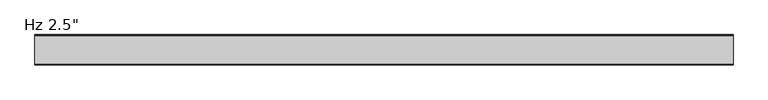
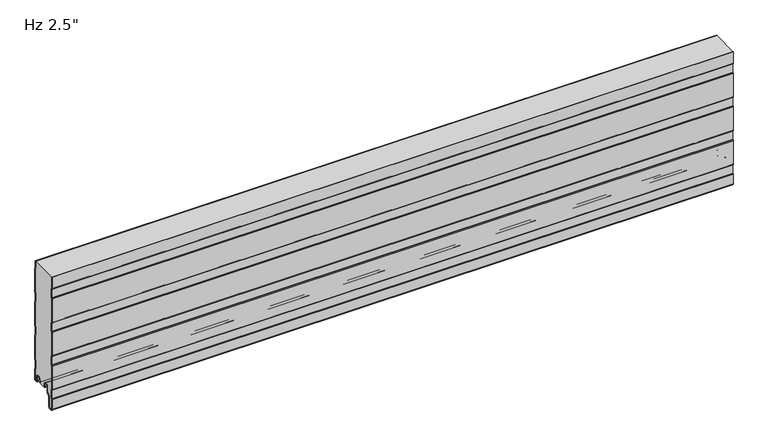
"""IFC4 building model written with IfcOpenShell, lengths in millimetres: plate geometry."""

from ifc_helpers import new_model, si_unit, point, frame, frame_2d, origin, place, context, project, spatial, polyline, circle_curve, trimmed, segment, composite_curve, outline, extrude, source, transform, mapped, element, save
from ifc_brep_helpers import plane_surface, cylinder_surface, revolved_surface, advanced_brep


def plate_4793d3af(model_context):
    return source(origin(), model_context, "Body", "SolidModel", [
        advanced_brep(
        [(-730.0, -17.0015159, 2.0313088), (-730.0, -18.0015191, 1.0313116), (-730.0, -19.0015105, 2.0313088), (-730.0, -19.0015105, 6.0315125), (-730.0, -18.0015159, 6.0315125), (-730.0, -18.0015159, 8.7237223), (-730.0, -14.7015202, 12.023718), (-730.0, -10.301529, 12.023718), (-730.0, -7.0015335, 8.7237225), (-730.0, -7.0015335, -1.6962564), (-730.0, -5.2315393, -3.4662506), (-730.0, -0.9999916, -3.4662506), (-730.0, -0.9999916, 21.034026), (-730.0, -2.2002307, 22.4196686), (-730.0, -2.2002307, 41.7948349), (-730.0, -1.0, 43.1804679), (-730.0, -1.0, 97.2338833), (-730.0, -2.2002307, 98.6195162), (-730.0, -2.2002307, 117.9946825), (-730.0, -1.0, 119.3803155), (-730.0, -1.0, 173.4337309), (-730.0, -2.2002307, 174.8193638), (-730.0, -2.2002307, 194.1945301), (-730.0, -1.0, 195.5801631), (-730.0, -1.0, 249.6335785), (-730.0, -2.2002307, 251.0192114), (-730.0, -2.2002307, 266.4), (-730.0, -1.2002307, 266.4), (-730.0, -1.2002307, 251.3920919), (-730.0, -0.3417885, 250.4010442), (-730.0, 0.0, 249.4844273), (-730.0, 0.0, 195.7293142), (-730.0, -0.3417885, 194.8126973), (-730.0, -1.2002307, 193.8216497), (-730.0, -1.2002307, 175.1922443), (-730.0, -0.3417885, 174.2011966), (-730.0, 0.0, 173.2845797), (-730.0, 0.0, 119.5294666), (-730.0, -0.3417885, 118.6128497), (-730.0, -1.2002307, 117.6218021), (-730.0, -1.2002307, 98.9923967), (-730.0, -0.3417885, 98.001349), (-730.0, 0.0, 97.0847321), (-730.0, 0.0, 43.329619), (-730.0, -0.3417885, 42.4130021), (-730.0, -1.2002307, 41.4219545), (-730.0, -1.2002307, 22.7925491), (-730.0, -0.3417885, 21.8015014), (-730.0, 0.0, 20.8847931), (-730.0, 8.4e-06, -3.0662545), (-730.0, -1.3999878, -4.4662506), (-730.0, -5.2315393, -4.4662506), (-730.0, -8.0015335, -1.6962564), (-730.0, -8.0015335, 8.7237225), (-730.0, -10.301529, 11.023718), (-730.0, -14.7015202, 11.023718), (-730.0, -17.0015159, 8.7237223), (730.0, -17.0015159, 2.0313088), (730.0, -17.0015159, 8.7237223), (730.0, -14.7015202, 11.023718), (730.0, -10.301529, 11.023718), (730.0, -8.0015335, 8.7237225), (730.0, -8.0015335, -1.6962564), (730.0, -5.2315393, -4.4662506), (730.0, -1.3999878, -4.4662506), (730.0, 8.4e-06, -3.0662545), (730.0, 8.4e-06, 20.8848845), (730.0, -0.3417885, 21.8015014), (730.0, -1.2002307, 22.7925491), (730.0, -1.2002307, 41.4219545), (730.0, -0.3417885, 42.4130021), (730.0, 0.0, 43.329619), (730.0, 0.0, 97.0847321), (730.0, -0.3417885, 98.001349), (730.0, -1.2002307, 98.9923967), (730.0, -1.2002307, 117.6218021), (730.0, -0.3417885, 118.6128497), (730.0, 0.0, 119.5294666), (730.0, 0.0, 173.2845797), (730.0, -0.3417885, 174.2011966), (730.0, -1.2002307, 175.1922443), (730.0, -1.2002307, 193.8216497), (730.0, -0.3417885, 194.8126973), (730.0, 0.0, 195.7293142), (730.0, 0.0, 249.4844273), (730.0, -0.3417885, 250.4010442), (730.0, -1.2002307, 251.3920919), (730.0, -1.2002307, 266.4), (730.0, -2.2002307, 266.4), (730.0, -2.2002307, 251.0192114), (730.0, -1.0, 249.6335785), (730.0, -1.0, 195.5801631), (730.0, -2.2002307, 194.1945301), (730.0, -2.2002307, 174.8193638), (730.0, -1.0, 173.4337309), (730.0, -1.0, 119.3803155), (730.0, -2.2002307, 117.9946825), (730.0, -2.2002307, 98.6195162), (730.0, -1.0, 97.2338833), (730.0, -1.0, 43.1804679), (730.0, -2.2002307, 41.7948349), (730.0, -2.2002307, 22.4196686), (730.0, -0.9999916, 21.034026), (730.0, -0.9999916, -3.4662506), (730.0, -5.2315393, -3.4662506), (730.0, -7.0015335, -1.6962564), (730.0, -7.0015335, 8.7237225), (730.0, -10.301529, 12.023718), (730.0, -14.7015202, 12.023718), (730.0, -18.0015159, 8.7237223), (730.0, -18.0015159, 6.0315125), (730.0, -19.0015105, 6.0315125), (730.0, -19.0015105, 2.0313088), (730.0, -18.0015192, 1.0313116)],
        [
            (0, 1, circle_curve(frame((-730.0, -18.0015132, 2.0313088), z_axis=(-1.0, 0.0, 0.0), x_axis=(0.0, 0.0, 1.0)), 0.9999973)),
            (1, 2, circle_curve(frame((-730.0, -18.0015133, 2.0313088), z_axis=(-1.0, 0.0, 0.0), x_axis=(0.0, 0.0, 1.0)), 0.9999972)),
            (2, 3),
            (3, 4),
            (4, 5),
            (5, 6, circle_curve(frame((-730.0, -14.7015202, 8.7237223), z_axis=(-1.0, 0.0, 0.0), x_axis=(0.0, 0.0, 1.0)), 3.2999957)),
            (6, 7),
            (7, 8, circle_curve(frame((-730.0, -10.301529, 8.7237225), z_axis=(-1.0, 0.0, 0.0), x_axis=(0.0, 0.0, 1.0)), 3.2999955)),
            (8, 9),
            (9, 10, circle_curve(frame((-730.0, -5.2315393, -1.6962564), z_axis=(1.0, 0.0, 0.0), x_axis=(0.0, 0.0, 1.0)), 1.7699942)),
            (10, 11),
            (11, 12),
            (12, 13),
            (13, 14),
            (14, 15),
            (15, 16),
            (16, 17),
            (17, 18),
            (18, 19),
            (19, 20),
            (20, 21),
            (21, 22),
            (22, 23),
            (23, 24),
            (24, 25),
            (25, 26),
            (26, 27),
            (27, 28),
            (28, 29),
            (29, 30, circle_curve(frame((-730.0, -1.3999972, 249.4844273), z_axis=(-1.0, 0.0, 0.0), x_axis=(0.0, 0.0, 1.0)), 1.3999972)),
            (30, 31),
            (31, 32, circle_curve(frame((-730.0, -1.3999972, 195.7293142), z_axis=(-1.0, 0.0, 0.0), x_axis=(0.0, 0.0, 1.0)), 1.3999972)),
            (32, 33),
            (33, 34),
            (34, 35),
            (35, 36, circle_curve(frame((-730.0, -1.3999972, 173.2845797), z_axis=(-1.0, 0.0, 0.0), x_axis=(0.0, 0.0, 1.0)), 1.3999972)),
            (36, 37),
            (37, 38, circle_curve(frame((-730.0, -1.3999972, 119.5294666), z_axis=(-1.0, 0.0, 0.0), x_axis=(0.0, 0.0, 1.0)), 1.3999972)),
            (38, 39),
            (39, 40),
            (40, 41),
            (41, 42, circle_curve(frame((-730.0, -1.3999972, 97.0847321), z_axis=(-1.0, 0.0, 0.0), x_axis=(0.0, 0.0, 1.0)), 1.3999972)),
            (42, 43),
            (43, 44, circle_curve(frame((-730.0, -1.3999972, 43.329619), z_axis=(-1.0, 0.0, 0.0), x_axis=(0.0, 0.0, 1.0)), 1.3999972)),
            (44, 45),
            (45, 46),
            (46, 47),
            (47, 48, circle_curve(frame((-730.0, -1.3999972, 20.8848845), z_axis=(-1.0, 0.0, 0.0), x_axis=(0.0, 0.0, 1.0)), 1.3999972)),
            (48, 49),
            (49, 50, circle_curve(frame((-730.0, -1.3999878, -3.0662545), z_axis=(-1.0, 0.0, 0.0), x_axis=(0.0, 0.0, 1.0)), 1.3999962)),
            (50, 51),
            (51, 52, circle_curve(frame((-730.0, -5.2315393, -1.6962564), z_axis=(-1.0, 0.0, 0.0), x_axis=(0.0, 0.0, 1.0)), 2.7699942)),
            (52, 53),
            (53, 54, circle_curve(frame((-730.0, -10.301529, 8.7237225), z_axis=(1.0, 0.0, 0.0), x_axis=(0.0, 0.0, 1.0)), 2.2999955)),
            (54, 55),
            (55, 56, circle_curve(frame((-730.0, -14.7015202, 8.7237223), z_axis=(1.0, 0.0, 0.0), x_axis=(0.0, 0.0, 1.0)), 2.2999957)),
            (56, 0),
            (57, 58),
            (58, 59, circle_curve(frame((730.0, -14.7015202, 8.7237223), z_axis=(-1.0, 0.0, 0.0), x_axis=(0.0, 0.0, 1.0)), 2.2999957)),
            (59, 60),
            (60, 61, circle_curve(frame((730.0, -10.301529, 8.7237225), z_axis=(-1.0, 0.0, 0.0), x_axis=(0.0, 0.0, 1.0)), 2.2999955)),
            (61, 62),
            (62, 63, circle_curve(frame((730.0, -5.2315393, -1.6962564), z_axis=(1.0, 0.0, 0.0), x_axis=(0.0, 0.0, 1.0)), 2.7699942)),
            (63, 64),
            (64, 65, circle_curve(frame((730.0, -1.3999878, -3.0662545), z_axis=(1.0, 0.0, 0.0), x_axis=(0.0, 0.0, 1.0)), 1.3999962)),
            (65, 66),
            (66, 67, circle_curve(frame((730.0, -1.3999972, 20.8848845), z_axis=(1.0, 0.0, 0.0), x_axis=(0.0, 0.0, 1.0)), 1.3999972)),
            (67, 68),
            (68, 69),
            (69, 70),
            (70, 71, circle_curve(frame((730.0, -1.3999972, 43.329619), z_axis=(1.0, 0.0, 0.0), x_axis=(0.0, 0.0, 1.0)), 1.3999972)),
            (71, 72),
            (72, 73, circle_curve(frame((730.0, -1.3999972, 97.0847321), z_axis=(1.0, 0.0, 0.0), x_axis=(0.0, 0.0, 1.0)), 1.3999972)),
            (73, 74),
            (74, 75),
            (75, 76),
            (76, 77, circle_curve(frame((730.0, -1.3999972, 119.5294666), z_axis=(1.0, 0.0, 0.0), x_axis=(0.0, 0.0, 1.0)), 1.3999972)),
            (77, 78),
            (78, 79, circle_curve(frame((730.0, -1.3999972, 173.2845797), z_axis=(1.0, 0.0, 0.0), x_axis=(0.0, 0.0, 1.0)), 1.3999972)),
            (79, 80),
            (80, 81),
            (81, 82),
            (82, 83, circle_curve(frame((730.0, -1.3999972, 195.7293142), z_axis=(1.0, 0.0, 0.0), x_axis=(0.0, 0.0, 1.0)), 1.3999972)),
            (83, 84),
            (84, 85, circle_curve(frame((730.0, -1.3999972, 249.4844273), z_axis=(1.0, 0.0, 0.0), x_axis=(0.0, 0.0, 1.0)), 1.3999972)),
            (85, 86),
            (86, 87),
            (87, 88),
            (88, 89),
            (89, 90),
            (90, 91),
            (91, 92),
            (92, 93),
            (93, 94),
            (94, 95),
            (95, 96),
            (96, 97),
            (97, 98),
            (98, 99),
            (99, 100),
            (100, 101),
            (101, 102),
            (102, 103),
            (103, 104),
            (104, 105, circle_curve(frame((730.0, -5.2315393, -1.6962564), z_axis=(-1.0, 0.0, 0.0), x_axis=(0.0, 0.0, 1.0)), 1.7699942)),
            (105, 106),
            (106, 107, circle_curve(frame((730.0, -10.301529, 8.7237225), z_axis=(1.0, 0.0, 0.0), x_axis=(0.0, 0.0, 1.0)), 3.2999955)),
            (107, 108),
            (108, 109, circle_curve(frame((730.0, -14.7015202, 8.7237223), z_axis=(1.0, 0.0, 0.0), x_axis=(0.0, 0.0, 1.0)), 3.2999957)),
            (109, 110),
            (110, 111),
            (111, 112),
            (112, 113, circle_curve(frame((730.0, -18.0015133, 2.0313088), z_axis=(1.0, 0.0, 0.0), x_axis=(0.0, 0.0, 1.0)), 0.9999972)),
            (113, 57, circle_curve(frame((730.0, -18.0015132, 2.0313088), z_axis=(1.0, 0.0, 0.0), x_axis=(0.0, 0.0, 1.0)), 0.9999973)),
            (26, 88),
            (87, 27),
            (56, 58),
            (57, 0),
            (55, 59),
            (54, 60),
            (53, 61),
            (52, 62),
            (51, 63),
            (50, 64),
            (49, 65),
            (48, 66),
            (47, 67),
            (46, 68),
            (45, 69),
            (44, 70),
            (43, 71),
            (42, 72),
            (41, 73),
            (40, 74),
            (39, 75),
            (38, 76),
            (37, 77),
            (36, 78),
            (19, 95),
            (94, 20),
            (18, 96),
            (17, 97),
            (16, 98),
            (15, 99),
            (14, 100),
            (13, 101),
            (12, 102),
            (11, 103),
            (10, 104),
            (9, 105),
            (8, 106),
            (7, 107),
            (6, 108),
            (5, 109),
            (4, 110),
            (3, 111),
            (2, 112),
            (1, 113),
            (35, 79),
            (34, 80),
            (33, 81),
            (32, 82),
            (31, 83),
            (30, 84),
            (29, 85),
            (28, 86),
            (25, 89),
            (24, 90),
            (23, 91),
            (22, 92),
            (21, 93),
        ],
        [
            plane_surface(frame((-730.0, 0.0, 533.4), z_axis=(-1.0, 0.0, 0.0), x_axis=(0.0, 1.0, 0.0))),
            plane_surface(frame((730.0, 0.0, 533.4), z_axis=(1.0, 0.0, 0.0), x_axis=(0.0, 1.0, 0.0))),
            plane_surface(frame((730.0, 10.0, 266.4), z_axis=(0.0, 0.0, 1.0), x_axis=(-1.0, 0.0, 0.0))),
            plane_surface(frame((-730.0, -17.0015159, 2.0313088), z_axis=(0.0, 1.0, 0.0), x_axis=(1.0, 0.0, 0.0))),
            revolved_surface(polyline([(730.0, -14.7015202, 11.023718), (-730.0, -14.7015202, 11.023718)]), (-730.0, -14.7015202, 8.7237223), (1.0, 0.0, 0.0)),
            plane_surface(frame((-730.0, -14.7015202, 11.023718), z_axis=(0.0, 0.0, -1.0), x_axis=(1.0, 0.0, 0.0))),
            revolved_surface(polyline([(730.0, -10.301529, 11.023717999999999), (-730.0, -10.301529, 11.023717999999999)]), (-730.0, -10.301529, 8.7237225), (1.0, 0.0, 0.0)),
            plane_surface(frame((-730.0, -8.0015335, 8.7237225), z_axis=(0.0, -1.0, 0.0), x_axis=(1.0, 0.0, 0.0))),
            cylinder_surface(frame((-730.0, -5.2315393, -1.6962564), z_axis=(-1.0, 0.0, 0.0), x_axis=(0.0, 0.0, 1.0)), 2.7699942),
            plane_surface(frame((-730.0, -5.2315393, -4.4662506), z_axis=(0.0, 0.0, -1.0), x_axis=(1.0, 0.0, 0.0))),
            cylinder_surface(frame((-730.0, -1.3999878, -3.0662545), z_axis=(-1.0, 0.0, 0.0), x_axis=(0.0, 0.0, 1.0)), 1.3999962),
            plane_surface(frame((-730.0, 8.4e-06, -3.0662545), z_axis=(0.0, 1.0, 0.0), x_axis=(1.0, 0.0, 0.0))),
            cylinder_surface(frame((-730.0, -1.3999972, 20.8848845), z_axis=(-1.0, 0.0, 0.0), x_axis=(0.0, 0.0, 1.0)), 1.3999972),
            plane_surface(frame((-730.0, -0.3417885, 21.8015014), z_axis=(0.0, 0.755864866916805, 0.6547276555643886), x_axis=(1.0, 0.0, 0.0))),
            plane_surface(frame((-730.0, -1.2002307, 32.1072518), z_axis=(0.0, 1.0, 0.0), x_axis=(1.0, 0.0, 0.0))),
            plane_surface(frame((-730.0, -1.2002307, 41.4219545), z_axis=(0.0, 0.755864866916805, -0.6547276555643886), x_axis=(1.0, 0.0, 0.0))),
            cylinder_surface(frame((-730.0, -1.3999972, 43.329619), z_axis=(-1.0, 0.0, 0.0), x_axis=(0.0, 0.0, 1.0)), 1.3999972),
            plane_surface(frame((-730.0, 0.0, 43.329619), z_axis=(0.0, 1.0, 0.0), x_axis=(1.0, 0.0, 0.0))),
            cylinder_surface(frame((-730.0, -1.3999972, 97.0847321), z_axis=(-1.0, 0.0, 0.0), x_axis=(0.0, 0.0, 1.0)), 1.3999972),
            plane_surface(frame((-730.0, -0.3417885, 98.001349), z_axis=(0.0, 0.755864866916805, 0.6547276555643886), x_axis=(1.0, 0.0, 0.0))),
            plane_surface(frame((-730.0, -1.2002307, 108.3070994), z_axis=(0.0, 1.0, 0.0), x_axis=(1.0, 0.0, 0.0))),
            plane_surface(frame((-730.0, -1.2002307, 117.6218021), z_axis=(0.0, 0.755864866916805, -0.6547276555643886), x_axis=(1.0, 0.0, 0.0))),
            cylinder_surface(frame((-730.0, -1.3999972, 119.5294666), z_axis=(-1.0, 0.0, 0.0), x_axis=(0.0, 0.0, 1.0)), 1.3999972),
            plane_surface(frame((-730.0, 0.0, 119.5294666), z_axis=(0.0, 1.0, 0.0), x_axis=(1.0, 0.0, 0.0))),
            plane_surface(frame((-730.0, -1.0, 173.4337309), z_axis=(0.0, -1.0, 0.0), x_axis=(1.0, 0.0, 0.0))),
            plane_surface(frame((-730.0, -1.0, 119.3803155), z_axis=(0.0, -0.755864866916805, 0.6547276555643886), x_axis=(1.0, 0.0, 0.0))),
            plane_surface(frame((-730.0, -2.2002307, 117.9946825), z_axis=(0.0, -1.0, 0.0), x_axis=(1.0, 0.0, 0.0))),
            plane_surface(frame((-730.0, -2.2002307, 98.6195162), z_axis=(0.0, -0.755864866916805, -0.6547276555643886), x_axis=(1.0, 0.0, 0.0))),
            plane_surface(frame((-730.0, -1.0, 97.2338833), z_axis=(0.0, -1.0, 0.0), x_axis=(1.0, 0.0, 0.0))),
            plane_surface(frame((-730.0, -1.0, 43.1804679), z_axis=(0.0, -0.755864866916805, 0.6547276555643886), x_axis=(1.0, 0.0, 0.0))),
            plane_surface(frame((-730.0, -2.2002307, 41.7948349), z_axis=(0.0, -1.0, 0.0), x_axis=(1.0, 0.0, 0.0))),
            plane_surface(frame((-730.0, -2.2002307, 22.4196686), z_axis=(0.0, -0.755864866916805, -0.6547276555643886), x_axis=(1.0, 0.0, 0.0))),
            plane_surface(frame((-730.0, -0.9999916, 21.034026), z_axis=(0.0, -1.0, 0.0), x_axis=(1.0, 0.0, 0.0))),
            plane_surface(frame((-730.0, -0.9999916, -3.4662506), z_axis=(0.0, 0.0, 1.0), x_axis=(1.0, 0.0, 0.0))),
            revolved_surface(polyline([(730.0, -5.2315393, 0.07373779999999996), (-730.0, -5.2315393, 0.07373779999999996)]), (-730.0, -5.2315393, -1.6962564), (1.0, 0.0, 0.0)),
            plane_surface(frame((-730.0, -7.0015335, -1.6962564), z_axis=(0.0, 1.0, 0.0), x_axis=(1.0, 0.0, 0.0))),
            cylinder_surface(frame((-730.0, -10.301529, 8.7237225), z_axis=(-1.0, 0.0, 0.0), x_axis=(0.0, 0.0, 1.0)), 3.2999955),
            plane_surface(frame((-730.0, -10.301529, 12.023718), z_axis=(0.0, 0.0, 1.0), x_axis=(1.0, 0.0, 0.0))),
            cylinder_surface(frame((-730.0, -14.7015202, 8.7237223), z_axis=(-1.0, 0.0, 0.0), x_axis=(0.0, 0.0, 1.0)), 3.2999957),
            plane_surface(frame((-730.0, -18.0015159, 8.7237223), z_axis=(0.0, -1.0, 0.0), x_axis=(1.0, 0.0, 0.0))),
            plane_surface(frame((-730.0, -18.0015159, 6.0315125), z_axis=(0.0, 0.0, 1.0), x_axis=(1.0, 0.0, 0.0))),
            plane_surface(frame((-730.0, -19.0015105, 6.0315125), z_axis=(0.0, -1.0, 0.0), x_axis=(1.0, 0.0, 0.0))),
            cylinder_surface(frame((-730.0, -18.0015133, 2.0313088), z_axis=(-1.0, 0.0, 0.0), x_axis=(0.0, 0.0, 1.0)), 0.9999972),
            cylinder_surface(frame((-730.0, -18.0015132, 2.0313088), z_axis=(-1.0, 0.0, 0.0), x_axis=(0.0, 0.0, 1.0)), 0.9999973),
            cylinder_surface(frame((-730.0, -1.3999972, 173.2845797), z_axis=(-1.0, 0.0, 0.0), x_axis=(0.0, 0.0, 1.0)), 1.3999972),
            plane_surface(frame((-730.0, -0.3417885, 174.2011966), z_axis=(0.0, 0.755864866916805, 0.6547276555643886), x_axis=(1.0, 0.0, 0.0))),
            plane_surface(frame((-730.0, -1.2002307, 184.506947), z_axis=(0.0, 1.0, 0.0), x_axis=(1.0, 0.0, 0.0))),
            plane_surface(frame((-730.0, -1.2002307, 193.8216497), z_axis=(0.0, 0.755864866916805, -0.6547276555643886), x_axis=(1.0, 0.0, 0.0))),
            cylinder_surface(frame((-730.0, -1.3999972, 195.7293142), z_axis=(-1.0, 0.0, 0.0), x_axis=(0.0, 0.0, 1.0)), 1.3999972),
            plane_surface(frame((-730.0, 0.0, 195.7293142), z_axis=(0.0, 1.0, 0.0), x_axis=(1.0, 0.0, 0.0))),
            cylinder_surface(frame((-730.0, -1.3999972, 249.4844273), z_axis=(-1.0, 0.0, 0.0), x_axis=(0.0, 0.0, 1.0)), 1.3999972),
            plane_surface(frame((-730.0, -0.3417885, 250.4010442), z_axis=(0.0, 0.755864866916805, 0.6547276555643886), x_axis=(1.0, 0.0, 0.0))),
            plane_surface(frame((-730.0, -1.2002307, 260.7067946), z_axis=(0.0, 1.0, 0.0), x_axis=(1.0, 0.0, 0.0))),
            plane_surface(frame((-730.0, -2.2002307, 270.3943777), z_axis=(0.0, -1.0, 0.0), x_axis=(1.0, 0.0, 0.0))),
            plane_surface(frame((-730.0, -2.2002307, 251.0192114), z_axis=(0.0, -0.755864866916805, -0.6547276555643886), x_axis=(1.0, 0.0, 0.0))),
            plane_surface(frame((-730.0, -1.0, 249.6335785), z_axis=(0.0, -1.0, 0.0), x_axis=(1.0, 0.0, 0.0))),
            plane_surface(frame((-730.0, -1.0, 195.5801631), z_axis=(0.0, -0.755864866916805, 0.6547276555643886), x_axis=(1.0, 0.0, 0.0))),
            plane_surface(frame((-730.0, -2.2002307, 194.1945301), z_axis=(0.0, -1.0, 0.0), x_axis=(1.0, 0.0, 0.0))),
            plane_surface(frame((-730.0, -2.2002307, 174.8193638), z_axis=(0.0, -0.755864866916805, -0.6547276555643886), x_axis=(1.0, 0.0, 0.0))),
        ],
        [
            (0, [[1, 2, 3, 4, 5, 6, 7, 8, 9, 10, 11, 12, 13, 14, 15, 16, 17, 18, 19, 20, 21, 22, 23, 24, 25, 26, 27, 28, 29, 30, 31, 32, 33, 34, 35, 36, 37, 38, 39, 40, 41, 42, 43, 44, 45, 46, 47, 48, 49, 50, 51, 52, 53, 54, 55, 56, 57]]),
            (1, [[58, 59, 60, 61, 62, 63, 64, 65, 66, 67, 68, 69, 70, 71, 72, 73, 74, 75, 76, 77, 78, 79, 80, 81, 82, 83, 84, 85, 86, 87, 88, 89, 90, 91, 92, 93, 94, 95, 96, 97, 98, 99, 100, 101, 102, 103, 104, 105, 106, 107, 108, 109, 110, 111, 112, 113, 114]]),
            (2, [[115, -88, 116, -27]]),
            (3, [[117, -58, 118, -57]]),
            (4, [[119, -59, -117, -56]]),
            (5, [[120, -60, -119, -55]]),
            (6, [[121, -61, -120, -54]]),
            (7, [[122, -62, -121, -53]]),
            (8, [[123, -63, -122, -52]]),
            (9, [[124, -64, -123, -51]]),
            (10, [[125, -65, -124, -50]]),
            (11, [[126, -66, -125, -49]]),
            (12, [[127, -67, -126, -48]]),
            (13, [[128, -68, -127, -47]]),
            (14, [[129, -69, -128, -46]]),
            (15, [[130, -70, -129, -45]]),
            (16, [[131, -71, -130, -44]]),
            (17, [[132, -72, -131, -43]]),
            (18, [[133, -73, -132, -42]]),
            (19, [[134, -74, -133, -41]]),
            (20, [[135, -75, -134, -40]]),
            (21, [[136, -76, -135, -39]]),
            (22, [[137, -77, -136, -38]]),
            (23, [[138, -78, -137, -37]]),
            (24, [[139, -95, 140, -20]]),
            (25, [[141, -96, -139, -19]]),
            (26, [[142, -97, -141, -18]]),
            (27, [[143, -98, -142, -17]]),
            (28, [[144, -99, -143, -16]]),
            (29, [[145, -100, -144, -15]]),
            (30, [[146, -101, -145, -14]]),
            (31, [[147, -102, -146, -13]]),
            (32, [[148, -103, -147, -12]]),
            (33, [[149, -104, -148, -11]]),
            (34, [[150, -105, -149, -10]]),
            (35, [[151, -106, -150, -9]]),
            (36, [[152, -107, -151, -8]]),
            (37, [[153, -108, -152, -7]]),
            (38, [[154, -109, -153, -6]]),
            (39, [[155, -110, -154, -5]]),
            (40, [[156, -111, -155, -4]]),
            (41, [[157, -112, -156, -3]]),
            (42, [[158, -113, -157, -2]]),
            (43, [[-118, -114, -158, -1]]),
            (44, [[159, -79, -138, -36]]),
            (45, [[160, -80, -159, -35]]),
            (46, [[161, -81, -160, -34]]),
            (47, [[162, -82, -161, -33]]),
            (48, [[163, -83, -162, -32]]),
            (49, [[164, -84, -163, -31]]),
            (50, [[165, -85, -164, -30]]),
            (51, [[166, -86, -165, -29]]),
            (52, [[-28, -116, -87, -166]]),
            (53, [[-89, -115, -26, 167]]),
            (54, [[168, -90, -167, -25]]),
            (55, [[169, -91, -168, -24]]),
            (56, [[170, -92, -169, -23]]),
            (57, [[171, -93, -170, -22]]),
            (58, [[-140, -94, -171, -21]]),
        ],
    ),
        extrude(outline(composite_curve([segment(trimmed(circle_curve(frame_2d((-62.1007733, -10.6415934)), 1.3998661), [point((-63.5006394, -10.6415934))], [point((-63.0333971, -9.5976403))], False, "CARTESIAN"), True, "CONTINUOUS"), segment(polyline([(-63.0333971, -9.5976403), (-62.3006709, -8.8649141), (-62.3006709, 10.0260713), (-63.0336365, 10.7590369)]), True, "CONTINUOUS"), segment(trimmed(circle_curve(frame_2d((-62.1009253, 11.8030877)), 1.3999972), [point((-63.0336365, 10.7590369))], [point((-63.5009016, 11.810741))], False, "CARTESIAN"), True, "CONTINUOUS"), segment(polyline([(-63.5009016, 11.810741), (-63.5009016, 65.5582542)]), True, "CONTINUOUS"), segment(trimmed(circle_curve(frame_2d((-62.1009044, 65.5582542)), 1.3999972), [point((-63.5009016, 65.5582542))], [point((-63.0336156, 66.602305))], False, "CARTESIAN"), True, "CONTINUOUS"), segment(polyline([(-63.0336156, 66.602305), (-62.3006709, 67.3352497), (-62.3006709, 86.2259189), (-63.0336365, 86.9588845)]), True, "CONTINUOUS"), segment(trimmed(circle_curve(frame_2d((-62.1009253, 88.0029353)), 1.3999972), [point((-63.0336365, 86.9588845))], [point((-63.5009016, 88.0105886))], False, "CARTESIAN"), True, "CONTINUOUS"), segment(polyline([(-63.5009016, 88.0105886), (-63.5009016, 141.7581018)]), True, "CONTINUOUS"), segment(trimmed(circle_curve(frame_2d((-62.1009044, 141.7581018)), 1.3999972), [point((-63.5009016, 141.7581018))], [point((-63.0336156, 142.8021526))], False, "CARTESIAN"), True, "CONTINUOUS"), segment(polyline([(-63.0336156, 142.8021526), (-62.3006709, 143.5350973), (-62.3006709, 162.4257665), (-63.0336365, 163.1587321)]), True, "CONTINUOUS"), segment(trimmed(circle_curve(frame_2d((-62.1009253, 164.2027829)), 1.3999972), [point((-63.0336365, 163.1587321))], [point((-63.5009016, 164.2104362))], False, "CARTESIAN"), True, "CONTINUOUS"), segment(polyline([(-63.5009016, 164.2104362), (-63.5009016, 217.9579494)]), True, "CONTINUOUS"), segment(trimmed(circle_curve(frame_2d((-62.1009044, 217.9579494)), 1.3999972), [point((-63.5009016, 217.9579494))], [point((-63.0336156, 219.0020002))], False, "CARTESIAN"), True, "CONTINUOUS"), segment(polyline([(-63.0336156, 219.0020002), (-62.3006709, 219.7349449), (-62.3006709, 238.6256141), (-63.0336365, 239.3585797)]), True, "CONTINUOUS"), segment(trimmed(circle_curve(frame_2d((-62.1009253, 240.4026305)), 1.3999972), [point((-63.0336365, 239.3585797))], [point((-63.5009016, 240.4102838))], False, "CARTESIAN"), True, "CONTINUOUS"), segment(polyline([(-63.5009016, 240.4102838), (-63.5009016, 266.4), (-62.5009016, 266.4), (-62.5009016, 240.2405326), (-61.3006709, 239.0403019), (-61.3006709, 219.3208894), (-62.5009016, 218.1206587), (-62.5009016, 164.0405269), (-61.3006709, 162.8402962), (-61.3006709, 143.1208837), (-62.5009016, 141.920653), (-62.5009016, 87.8405213), (-61.3006709, 86.6402905), (-61.3006709, 66.920878), (-62.5009016, 65.7206473), (-62.5009016, 11.6405156), (-61.3006709, 10.4402849), (-61.3006709, -9.2791277), (-62.5006394, -10.4790962), (-62.5006394, -32.4521176)]), True, "CONTINUOUS"), segment(trimmed(circle_curve(frame_2d((-59.9304001, -32.4521176)), 2.5702393), [point((-62.5006394, -32.4521176))], [point((-59.7063145, -35.0125699))], True, "CARTESIAN"), True, "CONTINUOUS"), segment(polyline([(-59.7063145, -35.0125699), (-54.7244936, -34.5765709)]), True, "CONTINUOUS"), segment(trimmed(circle_curve(frame_2d((-55.2058842, -31.9198392)), 2.6999926), [point((-54.7244936, -34.5765709))], [point((-52.5058916, -31.9198392))], True, "CARTESIAN"), True, "CONTINUOUS"), segment(polyline([(-52.5058916, -31.9198392), (-52.5058916, -9.8247096), (-47.0038205, -4.3226385)]), True, "CONTINUOUS"), segment(trimmed(circle_curve(frame_2d((-48.2058982, -3.1205608)), 1.6999946), [point((-47.0038205, -4.3226385))], [point((-46.5059036, -3.1205608))], True, "CARTESIAN"), True, "CONTINUOUS"), segment(polyline([(-46.5059036, -3.1205608), (-46.5059036, 8.6903283)]), True, "CONTINUOUS"), segment(trimmed(circle_curve(frame_2d((-43.1559083, 8.6903283)), 3.3499953), [point((-46.5059036, 8.6903283))], [point((-43.1559083, 12.0403236))], False, "CARTESIAN"), True, "CONTINUOUS"), segment(polyline([(-43.1559083, 12.0403236), (-38.7559171, 12.0403236)]), True, "CONTINUOUS"), segment(trimmed(circle_curve(frame_2d((-38.7559171, 8.6903283)), 3.3499953), [point((-38.7559171, 12.0403236))], [point((-35.4059218, 8.6903283))], False, "CARTESIAN"), True, "CONTINUOUS"), segment(polyline([(-35.4059218, 8.6903283), (-35.4059218, 5.9912173), (-34.0074429, 5.9912173), (-34.0074429, 2.2328239)]), True, "CONTINUOUS"), segment(trimmed(circle_curve(frame_2d((-35.2074396, 2.2313092)), 1.1999976), [point((-34.0074429, 2.2328239))], [point((-35.1769177, 1.0316999))], False, "CARTESIAN"), True, "CONTINUOUS"), segment(trimmed(circle_curve(frame_2d((-35.2074396, 2.2313092)), 1.1999976), [point((-35.1769177, 1.0316999))], [point((-36.4059218, 2.1710221))], False, "CARTESIAN"), True, "CONTINUOUS"), segment(polyline([(-36.4059218, 2.1710221), (-36.4059218, 8.6903283)]), True, "CONTINUOUS"), segment(trimmed(circle_curve(frame_2d((-38.7559171, 8.6903283)), 2.3499953), [point((-36.4059218, 8.6903283))], [point((-38.7559171, 11.0403236))], True, "CARTESIAN"), True, "CONTINUOUS"), segment(polyline([(-38.7559171, 11.0403236), (-43.1559083, 11.0403236)]), True, "CONTINUOUS"), segment(trimmed(circle_curve(frame_2d((-43.1559083, 8.6903283)), 2.3499953), [point((-43.1559083, 11.0403236))], [point((-45.5059036, 8.6903283))], True, "CARTESIAN"), True, "CONTINUOUS"), segment(polyline([(-45.5059036, 8.6903283), (-45.5059036, -3.1205608)]), True, "CONTINUOUS"), segment(trimmed(circle_curve(frame_2d((-48.2058982, -3.1205608)), 2.6999946), [point((-45.5059036, -3.1205608))], [point((-46.2967137, -5.0297453))], False, "CARTESIAN"), True, "CONTINUOUS"), segment(polyline([(-46.2967137, -5.0297453), (-51.1251312, -9.8581627)]), True, "CONTINUOUS"), segment(trimmed(circle_curve(frame_2d((-50.2058942, -10.7773997)), 1.2999974), [point((-51.1251312, -9.8581627))], [point((-51.5058916, -10.7773997))], True, "CARTESIAN"), True, "CONTINUOUS"), segment(polyline([(-51.5058916, -10.7773997), (-51.5058916, -31.9198392)]), True, "CONTINUOUS"), segment(trimmed(circle_curve(frame_2d((-55.2058842, -31.9198392)), 3.6999926), [point((-51.5058916, -31.9198392))], [point((-54.5950831, -35.5690675))], False, "CARTESIAN"), True, "CONTINUOUS"), segment(polyline([(-54.5950831, -35.5690675), (-59.6191297, -36.008762)]), True, "CONTINUOUS"), segment(trimmed(circle_curve(frame_2d((-59.9304001, -32.4521176)), 3.5702393), [point((-59.6191297, -36.008762))], [point((-63.5006394, -32.4521176))], False, "CARTESIAN"), True, "CONTINUOUS"), segment(polyline([(-63.5006394, -32.4521176), (-63.5006394, -10.6415934)]), True, "CONTINUOUS")], self_intersect=False)), frame((-730.0, 0.0, 0.0), z_axis=(1.0, 0.0, 0.0), x_axis=(0.0, 1.0, 0.0)), (0.0, 0.0, 1.0), 1460.0),
        extrude(outline(composite_curve([segment(trimmed(circle_curve(frame_2d((-35.2013969, 2.2313092)), 1.1999976), [point((-35.170875, 1.0316999))], [point((-34.0014003, 2.2328239))], True, "CARTESIAN"), True, "CONTINUOUS"), segment(polyline([(-34.0014003, 2.2328239), (-34.0014003, 5.9912173), (-35.3998791, 5.9912173), (-35.3998791, 8.6903283)]), True, "CONTINUOUS"), segment(trimmed(circle_curve(frame_2d((-38.7498744, 8.6903283)), 3.3499953), [point((-35.3998791, 8.6903283))], [point((-38.7498744, 12.0403236))], True, "CARTESIAN"), True, "CONTINUOUS"), segment(polyline([(-38.7498744, 12.0403236), (-43.1498656, 12.0403236)]), True, "CONTINUOUS"), segment(trimmed(circle_curve(frame_2d((-43.1498656, 8.6903283)), 3.3499953), [point((-43.1498656, 12.0403236))], [point((-46.4998609, 8.6903283))], True, "CARTESIAN"), True, "CONTINUOUS"), segment(polyline([(-46.4998609, 8.6903283), (-46.4998609, -3.1205608)]), True, "CONTINUOUS"), segment(trimmed(circle_curve(frame_2d((-48.1998555, -3.1205608)), 1.6999946), [point((-46.4998609, -3.1205608))], [point((-46.9977778, -4.3226385))], False, "CARTESIAN"), True, "CONTINUOUS"), segment(polyline([(-46.9977778, -4.3226385), (-52.4998489, -9.8247096), (-52.4998489, -31.9198392)]), True, "CONTINUOUS"), segment(trimmed(circle_curve(frame_2d((-55.1998415, -31.9198392)), 2.6999926), [point((-52.4998489, -31.9198392))], [point((-54.7184509, -34.5765709))], False, "CARTESIAN"), True, "CONTINUOUS"), segment(polyline([(-54.7184509, -34.5765709), (-59.7002718, -35.0125699)]), True, "CONTINUOUS"), segment(trimmed(circle_curve(frame_2d((-59.9243575, -32.4521176)), 2.5702393), [point((-59.7002718, -35.0125699))], [point((-62.4945967, -32.4521176))], False, "CARTESIAN"), True, "CONTINUOUS"), segment(polyline([(-62.4945967, -32.4521176), (-62.4945967, -10.4790962), (-61.2946282, -9.2791277), (-61.2946282, 10.4402849), (-62.4948589, 11.6405156), (-62.4948589, 65.7206473), (-61.2946282, 66.920878), (-61.2946282, 86.6402905), (-62.4948589, 87.8405213), (-62.4948589, 141.920653), (-61.2946282, 143.1208837), (-61.2946282, 162.8402962), (-62.4948589, 164.0405269), (-62.4948589, 218.1206587), (-61.2946282, 219.3208894), (-61.2946282, 239.0403019), (-62.4948589, 240.2405326), (-62.4948589, 266.4), (-2.2002307, 266.4), (-2.2002307, 251.0192115), (-1.0, 249.6335785), (-1.0, 195.5801631), (-2.2002307, 194.1945302), (-2.2002307, 174.8193639), (-1.0, 173.4337309), (-1.0, 119.3803155), (-2.2002307, 117.9946826), (-2.2002307, 98.6195163), (-1.0, 97.2338833), (-1.0, 43.1804679), (-2.2002307, 41.794835), (-2.2002307, 22.4196687), (-0.9999916, 21.034026), (-0.9999916, -3.4662506), (-5.2315389, -3.4662506)]), True, "CONTINUOUS"), segment(trimmed(circle_curve(frame_2d((-5.2315389, -1.6962564)), 1.7699942), [point((-5.2315389, -3.4662506))], [point((-7.0015331, -1.6962564))], False, "CARTESIAN"), True, "CONTINUOUS"), segment(polyline([(-7.0015331, -1.6962564), (-7.0015331, 8.7237222)]), True, "CONTINUOUS"), segment(trimmed(circle_curve(frame_2d((-10.301529, 8.7237222)), 3.2999959), [point((-7.0015331, 8.7237222))], [point((-10.301529, 12.023718))], True, "CARTESIAN"), True, "CONTINUOUS"), segment(polyline([(-10.301529, 12.023718), (-14.7015202, 12.023718)]), True, "CONTINUOUS"), segment(trimmed(circle_curve(frame_2d((-14.7015202, 8.7237223)), 3.2999957), [point((-14.7015202, 12.023718))], [point((-18.0015159, 8.7237223))], True, "CARTESIAN"), True, "CONTINUOUS"), segment(polyline([(-18.0015159, 8.7237223), (-18.0015159, 6.0315125), (-19.0015105, 6.0315125), (-19.0015105, 2.0313089)]), True, "CONTINUOUS"), segment(trimmed(circle_curve(frame_2d((-18.0015133, 2.0313089)), 0.9999972), [point((-19.0015105, 2.0313089))], [point((-18.0015192, 1.0313117))], True, "CARTESIAN"), True, "CONTINUOUS"), segment(polyline([(-18.0015192, 1.0313117), (-19.0328308, 0.0), (-34.1391751, 0.0), (-35.170875, 1.0316999)]), True, "CONTINUOUS")], self_intersect=False)), frame((-730.0, 0.0, 0.0), z_axis=(1.0, 0.0, 0.0), x_axis=(0.0, 1.0, 0.0)), (0.0, 0.0, 1.0), 1460.0),
    ])


if __name__ == "__main__":
    model = new_model("IFC4")
    model_context = context("Model", 3, world=origin())
    ifc_project = project(units=[si_unit("LENGTHUNIT", "METRE", prefix="MILLI")], contexts=[model_context])
    site = spatial("IfcSite", under=ifc_project)
    building = spatial("IfcBuilding", under=site)
    placement = place(None, origin())
    plate_shape = plate_4793d3af(model_context)
    element("IfcPlate", 1, ObjectType="KIP-42-Karrier-KP-R19-CP-Hz-SL3-8in_SL : Hz 2.5\"", at=placement, inside=building, context=model_context, shape_type="MappedRepresentation", body=[
        mapped(plate_shape, transform((0.0, 0.0, 0.0), x_axis=(1.0, 0.0, 0.0), y_axis=(0.0, 1.0, 0.0), z_axis=(0.0, 0.0, 1.0))),
    ])
    save(model, "model.ifc")
